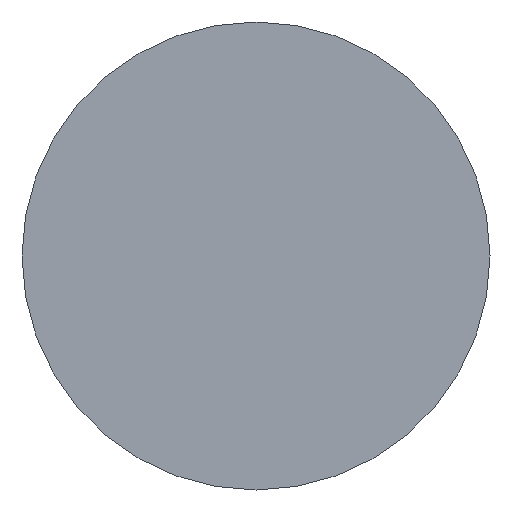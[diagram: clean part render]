
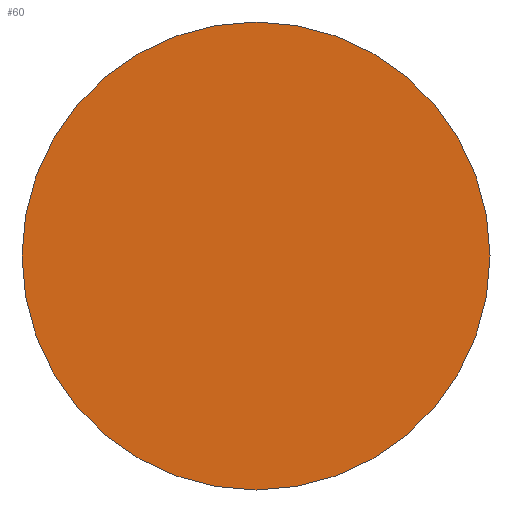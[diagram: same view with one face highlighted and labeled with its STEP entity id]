
A CAD part, left-side view. The second image highlights one B-rep face of the part: STEP entity #60.
In plain terms, the highlighted planar face has unit normal (-1, 0, 0).
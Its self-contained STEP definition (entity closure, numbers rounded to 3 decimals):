
#6 = DIRECTION ( 'NONE',  ( 0., 1., 0. ) ) ;
#32 = VERTEX_POINT ( 'NONE', #128 ) ;
#43 = EDGE_CURVE ( 'NONE', #183, #32, #215, .T. ) ;
#45 = AXIS2_PLACEMENT_3D ( 'NONE', #119, #88, #87 ) ;
#47 = DIRECTION ( 'NONE',  ( 1., 0., 0. ) ) ;
#60 = ADVANCED_FACE ( 'NONE', ( #105 ), #160, .T. ) ;
#62 = DIRECTION ( 'NONE',  ( 1., 0., 0. ) ) ;
#87 = DIRECTION ( 'NONE',  ( 0., -1., 0. ) ) ;
#88 = DIRECTION ( 'NONE',  ( -1., 0., 0. ) ) ;
#105 = FACE_OUTER_BOUND ( 'NONE', #161, .T. ) ;
#119 = CARTESIAN_POINT ( 'NONE',  ( 0., 0., 0. ) ) ;
#120 = CARTESIAN_POINT ( 'NONE',  ( 0., 0., 0. ) ) ;
#128 = CARTESIAN_POINT ( 'NONE',  ( 0., -13., 0. ) ) ;
#156 = AXIS2_PLACEMENT_3D ( 'NONE', #205, #47, #6 ) ;
#158 = ORIENTED_EDGE ( 'NONE', *, *, #43, .F. ) ;
#160 = PLANE ( 'NONE',  #45 ) ;
#161 = EDGE_LOOP ( 'NONE', ( #158, #200 ) ) ;
#175 = DIRECTION ( 'NONE',  ( 0., 1., 0. ) ) ;
#183 = VERTEX_POINT ( 'NONE', #219 ) ;
#188 = CIRCLE ( 'NONE', #232, 13. ) ;
#200 = ORIENTED_EDGE ( 'NONE', *, *, #217, .F. ) ;
#205 = CARTESIAN_POINT ( 'NONE',  ( 0., 0., 0. ) ) ;
#215 = CIRCLE ( 'NONE', #156, 13. ) ;
#217 = EDGE_CURVE ( 'NONE', #32, #183, #188, .T. ) ;
#219 = CARTESIAN_POINT ( 'NONE',  ( 0., 13., 0. ) ) ;
#232 = AXIS2_PLACEMENT_3D ( 'NONE', #120, #62, #175 ) ;
